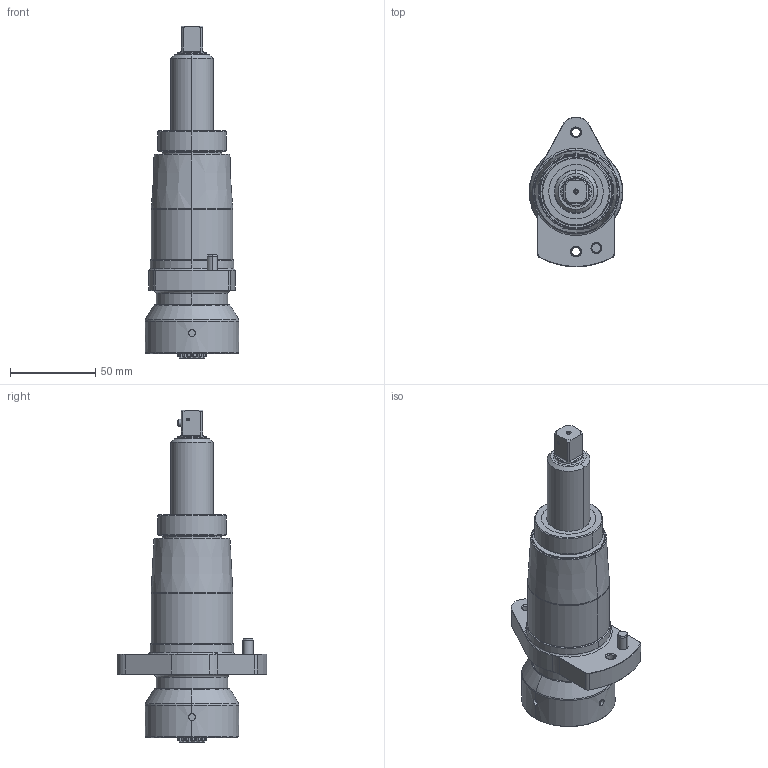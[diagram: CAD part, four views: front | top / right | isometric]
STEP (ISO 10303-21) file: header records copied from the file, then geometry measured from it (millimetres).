
FILE_DESCRIPTION((''),'2;1');
FILE_NAME('6153980800_ASM','2014-04-07T',('greextsd'),(''),'PRO/ENGINEER BY PARAMETRIC TECHNOLOGY CORPORATION, 2013410','PRO/ENGINEER BY PARAMETRIC TECHNOLOGY CORPORATION, 2013410','');
FILE_SCHEMA(('AUTOMOTIVE_DESIGN { 1 0 10303 214 1 1 1 1 }'));
Length unit declared in the file: millimetre
Products named in the file (14): 6155654480; 6155654480_ASM; 0502742308; 6155211290; 0335111900; 0666810010; 4220117400; 6155011550; 4090030300; 4250101200; 0108112400; 6155840710; 0102031500; 6153980800_ASM
Assembly tree (13 placements, depth 3):
  6153980800_ASM
    6155654480_ASM
      6155654480
    0502742308
    6155211290
    0335111900
    0666810010
    4220117400
    6155011550
    4090030300
    4250101200
    0108112400
    6155840710
    0102031500
Bounding box: 55 x 87.97 x 194.8 mm (x, y, z)
Volume: 203279.6 mm3; surface area: 89688.6 mm2
Topology: 12 solids, 15 shells, 619 faces, 1497 edges, 914 vertices
Faces by surface type: cylinder 232, cone 143, torus 121, plane 117, bspline 6
Entity records: 26777 total; most frequent: CARTESIAN_POINT 4771, DIRECTION 3301, ORIENTED_EDGE 2962, EDGE_CURVE 1487, AXIS2_PLACEMENT_3D 1395, PRESENTATION_STYLE_ASSIGNMENT 960, STYLED_ITEM 960, CURVE_STYLE 947
